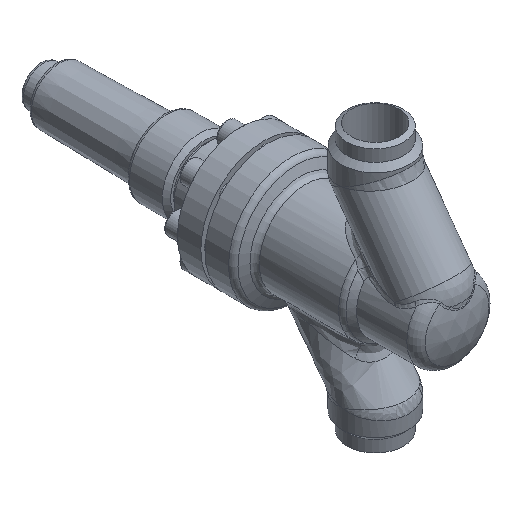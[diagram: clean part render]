
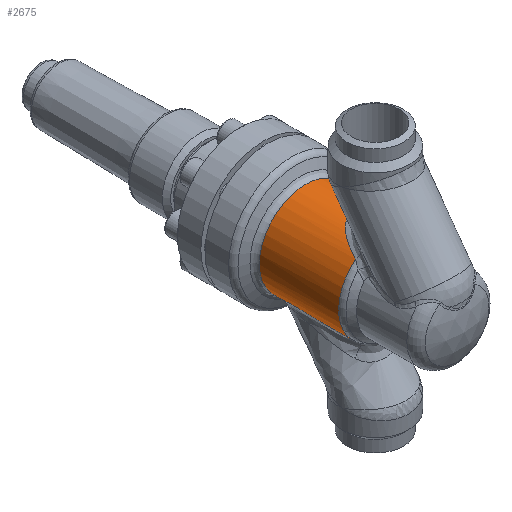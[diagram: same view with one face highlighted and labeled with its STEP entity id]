
A CAD part, isometric view. The second image highlights one B-rep face of the part: STEP entity #2675.
In plain terms, the highlighted cylindrical face has radius 27.5 mm (diameter 55 mm), a partial arc.
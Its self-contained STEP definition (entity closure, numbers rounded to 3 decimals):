
#2054=CARTESIAN_POINT('',(14.746,-12.391,-23.212));
#2055=VERTEX_POINT('',#2054);
#2056=CARTESIAN_POINT('',(-14.746,-12.391,-23.212));
#2057=VERTEX_POINT('',#2056);
#2091=CARTESIAN_POINT('',(20.819,-37.861,-17.967));
#2092=VERTEX_POINT('',#2091);
#2093=CARTESIAN_POINT('',(14.746,-12.391,-23.212));
#2094=CARTESIAN_POINT('',(15.791,-13.097,-22.548));
#2095=CARTESIAN_POINT('',(18.112,-15.081,-20.837));
#2096=CARTESIAN_POINT('',(20.591,-19.238,-18.301));
#2097=CARTESIAN_POINT('',(21.711,-25.101,-16.878));
#2098=CARTESIAN_POINT('',(21.729,-30.689,-16.857));
#2099=CARTESIAN_POINT('',(21.293,-34.925,-17.41));
#2100=CARTESIAN_POINT('',(20.921,-37.274,-17.849));
#2101=CARTESIAN_POINT('',(20.82,-37.861,-17.966));
#2102=B_SPLINE_CURVE_WITH_KNOTS('',3,(#2093,#2094,#2095,#2096,#2097,#2098,#2099,#2100,#2101),.UNSPECIFIED.,.F.,.U.,(4,1,1,1,1,1,4),(6.571,7.093,7.827,8.378,8.928,9.479,9.664),.UNSPECIFIED.);
#2103=EDGE_CURVE('',#2055,#2092,#2102,.T.);
#2105=CARTESIAN_POINT('',(12.735,-59.68,-24.373));
#2106=VERTEX_POINT('',#2105);
#2107=CARTESIAN_POINT('',(20.819,-37.861,-17.967));
#2108=CARTESIAN_POINT('',(20.62,-39.016,-18.197));
#2109=CARTESIAN_POINT('',(20.393,-40.158,-18.453));
#2110=CARTESIAN_POINT('',(20.14,-41.285,-18.725));
#2111=CARTESIAN_POINT('',(19.41,-44.545,-19.51));
#2112=CARTESIAN_POINT('',(18.47,-47.687,-20.426));
#2113=CARTESIAN_POINT('',(17.327,-50.649,-21.355));
#2114=CARTESIAN_POINT('',(17.278,-50.777,-21.395));
#2115=CARTESIAN_POINT('',(17.228,-50.905,-21.435));
#2116=CARTESIAN_POINT('',(17.178,-51.032,-21.475));
#2117=CARTESIAN_POINT('',(15.965,-54.11,-22.447));
#2118=CARTESIAN_POINT('',(14.503,-57.056,-23.45));
#2119=CARTESIAN_POINT('',(12.735,-59.68,-24.373));
#2120=B_SPLINE_CURVE_WITH_KNOTS('',3,(#2107,#2108,#2109,#2110,#2111,#2112,#2113,#2114,#2115,#2116,#2117,#2118,#2119),.UNSPECIFIED.,.F.,.U.,(4,3,3,3,4),(-9.665,-9.3,-8.244,-8.198,-7.097),.UNSPECIFIED.);
#2121=EDGE_CURVE('',#2092,#2106,#2120,.T.);
#2132=CARTESIAN_POINT('',(-12.735,-59.68,-24.373));
#2133=VERTEX_POINT('',#2132);
#2141=CARTESIAN_POINT('',(-12.735,-59.68,-24.373));
#2142=CARTESIAN_POINT('',(-14.507,-57.05,-23.448));
#2143=CARTESIAN_POINT('',(-17.416,-51.188,-21.451));
#2144=CARTESIAN_POINT('',(-20.048,-42.469,-18.895));
#2145=CARTESIAN_POINT('',(-21.462,-34.356,-17.209));
#2146=CARTESIAN_POINT('',(-21.829,-28.197,-16.725));
#2147=CARTESIAN_POINT('',(-21.405,-23.335,-17.271));
#2148=CARTESIAN_POINT('',(-20.341,-18.836,-18.556));
#2149=CARTESIAN_POINT('',(-18.121,-15.085,-20.832));
#2150=CARTESIAN_POINT('',(-15.794,-13.096,-22.545));
#2151=CARTESIAN_POINT('',(-14.746,-12.389,-23.21));
#2152=B_SPLINE_CURVE_WITH_KNOTS('',3,(#2141,#2142,#2143,#2144,#2145,#2146,#2147,#2148,#2149,#2150,#2151),.UNSPECIFIED.,.F.,.U.,(4,1,1,1,1,1,1,1,4),(-3.187,-2.086,-0.985,-0.25,0.484,0.851,1.218,1.953,2.475),.UNSPECIFIED.);
#2153=EDGE_CURVE('',#2133,#2057,#2152,.T.);
#2254=CARTESIAN_POINT('',(0.,-12.391,0.0));
#2255=DIRECTION('',(0.0,1.0,0.0));
#2256=DIRECTION('',(-1.0,0.0,0.0));
#2257=AXIS2_PLACEMENT_3D('',#2254,#2255,#2256);
#2258=CIRCLE('',#2257,27.5);
#2259=EDGE_CURVE('',#2057,#2055,#2258,.T.);
#2388=CARTESIAN_POINT('',(-17.445,-59.68,21.259));
#2389=VERTEX_POINT('',#2388);
#2398=CARTESIAN_POINT('',(17.445,-59.68,21.259));
#2399=VERTEX_POINT('',#2398);
#2407=CARTESIAN_POINT('',(17.445,-59.68,21.259));
#2408=CARTESIAN_POINT('',(16.765,-57.754,21.816));
#2409=CARTESIAN_POINT('',(15.738,-55.253,22.587));
#2410=CARTESIAN_POINT('',(13.33,-50.554,24.109));
#2411=CARTESIAN_POINT('',(10.992,-47.054,25.309));
#2412=CARTESIAN_POINT('',(7.33,-43.492,26.565));
#2413=CARTESIAN_POINT('',(4.444,-41.672,27.22));
#2414=CARTESIAN_POINT('',(1.437,-40.924,27.491));
#2415=CARTESIAN_POINT('',(-1.026,-40.847,27.519));
#2416=CARTESIAN_POINT('',(-3.857,-41.467,27.294));
#2417=CARTESIAN_POINT('',(-6.983,-43.221,26.662));
#2418=CARTESIAN_POINT('',(-10.061,-46.055,25.658));
#2419=CARTESIAN_POINT('',(-12.4,-49.166,24.585));
#2420=CARTESIAN_POINT('',(-15.097,-53.743,23.061));
#2421=CARTESIAN_POINT('',(-16.541,-57.118,22.001));
#2422=CARTESIAN_POINT('',(-17.445,-59.68,21.259));
#2423=B_SPLINE_CURVE_WITH_KNOTS('',3,(#2407,#2408,#2409,#2410,#2411,#2412,#2413,#2414,#2415,#2416,#2417,#2418,#2419,#2420,#2421,#2422),.UNSPECIFIED.,.F.,.U.,(4,1,1,1,1,1,1,1,1,1,1,1,1,4),(12.885,13.536,13.753,14.621,14.911,15.489,15.779,15.996,16.358,16.792,17.226,17.768,18.094,18.962),.UNSPECIFIED.);
#2424=EDGE_CURVE('',#2399,#2389,#2423,.T.);
#2649=CARTESIAN_POINT('',(0.,-29.695,0.0));
#2650=DIRECTION('',(0.,1.0,0.0));
#2651=DIRECTION('',(-1.0,0.0,0.0));
#2652=AXIS2_PLACEMENT_3D('',#2649,#2650,#2651);
#2653=CYLINDRICAL_SURFACE('',#2652,27.5);
#2654=ORIENTED_EDGE('',*,*,#2103,.F.);
#2655=ORIENTED_EDGE('',*,*,#2259,.F.);
#2656=ORIENTED_EDGE('',*,*,#2153,.F.);
#2657=CARTESIAN_POINT('',(0.,-59.68,0.0));
#2658=DIRECTION('',(0.0,-1.0,0.0));
#2659=DIRECTION('',(0.0,0.0,-1.0));
#2660=AXIS2_PLACEMENT_3D('',#2657,#2658,#2659);
#2661=CIRCLE('',#2660,27.5);
#2662=EDGE_CURVE('',#2389,#2133,#2661,.T.);
#2663=ORIENTED_EDGE('',*,*,#2662,.F.);
#2664=ORIENTED_EDGE('',*,*,#2424,.F.);
#2665=CARTESIAN_POINT('',(0.,-59.68,0.0));
#2666=DIRECTION('',(0.0,-1.0,0.0));
#2667=DIRECTION('',(0.0,0.0,-1.0));
#2668=AXIS2_PLACEMENT_3D('',#2665,#2666,#2667);
#2669=CIRCLE('',#2668,27.5);
#2670=EDGE_CURVE('',#2106,#2399,#2669,.T.);
#2671=ORIENTED_EDGE('',*,*,#2670,.F.);
#2672=ORIENTED_EDGE('',*,*,#2121,.F.);
#2673=EDGE_LOOP('',(#2654,#2655,#2656,#2663,#2664,#2671,#2672));
#2674=FACE_OUTER_BOUND('',#2673,.T.);
#2675=ADVANCED_FACE('',(#2674),#2653,.T.);
